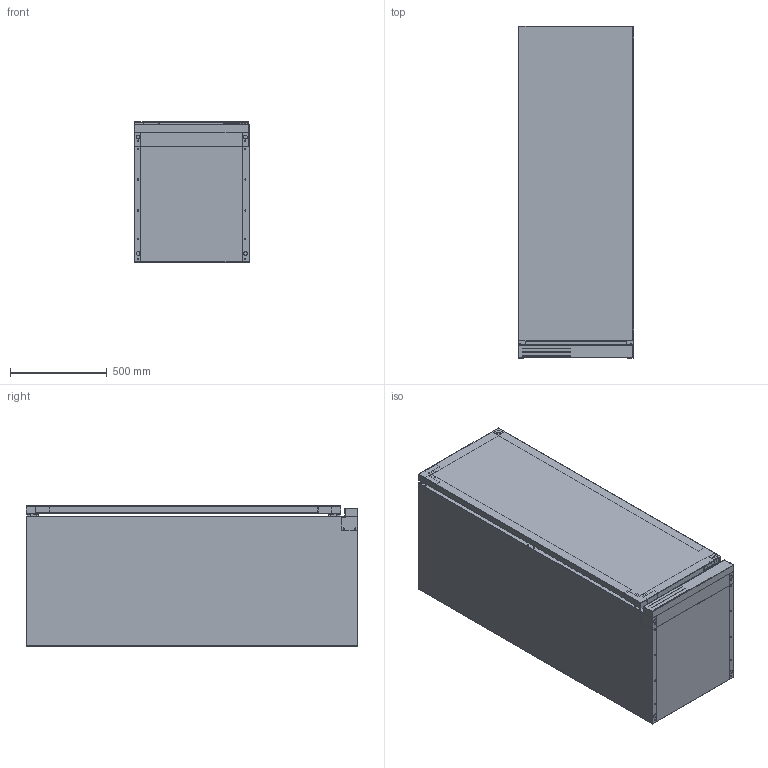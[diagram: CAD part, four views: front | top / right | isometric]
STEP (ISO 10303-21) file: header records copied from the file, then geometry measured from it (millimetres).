
FILE_DESCRIPTION((''),'2;1');
FILE_NAME('180000_ASM','2026-02-11T17:31:40',('Administrator'),(''),'CREO PARAMETRIC BY PTC INC, 2019080','CREO PARAMETRIC BY PTC INC, 2019080','');
FILE_SCHEMA(('CONFIG_CONTROL_DESIGN'));
Length unit declared in the file: millimetre
Products named in the file (18): DZ01-1245-1__88_120001_ASM; DZ01-1601-1_88_1200002; DZ01-1599-1_1800001; 180_1000_ASM; PRT0023; PRT0024; 12236-0001_1_1_1_1; 36-L0001_1_1_1_1; 36-0001_1_1_1_1; 36-R0001_1_1_1_1; 18036-0001_1_1_1_1; 122360001_ASM_1_1_ASM_1_1_ASM; 122MEN_ASM_1_1_ASM; 00_ASM_1_1_ASM; ASM0021_ASM; DZ01-2189__46-2D-20001_1_1_2; DZ01-2189__46-2D-10001_ASM_1__2_ASM; 180000_ASM
Assembly tree (20 placements, depth 6):
  180000_ASM
    180_1000_ASM
      DZ01-1245-1__88_120001_ASM
      DZ01-1601-1_88_1200002
      DZ01-1599-1_1800001
    PRT0023
    PRT0024
    ASM0021_ASM
      00_ASM_1_1_ASM
        122MEN_ASM_1_1_ASM
          122360001_ASM_1_1_ASM_1_1_ASM
            12236-0001_1_1_1_1  x2
            36-L0001_1_1_1_1
            36-0001_1_1_1_1  x2
            36-R0001_1_1_1_1
            18036-0001_1_1_1_1  x2
    DZ01-2189__46-2D-10001_ASM_1__2_ASM
      DZ01-2189__46-2D-20001_1_1_2
Bounding box: 598 x 1712.5 x 723 mm (x, y, z)
Volume: 11246455 mm3; surface area: 12375616.8 mm2
Topology: 13 solids, 15 shells, 1595 faces, 4289 edges, 2713 vertices
Faces by surface type: plane 938, cylinder 479, torus 98, bspline 70, sphere 10
Entity records: 51045 total; most frequent: CARTESIAN_POINT 11529, ORIENTED_EDGE 8255, DIRECTION 8156, EDGE_CURVE 4131, VECTOR 2810, LINE 2810, AXIS2_PLACEMENT_3D 2673, VERTEX_POINT 2615
